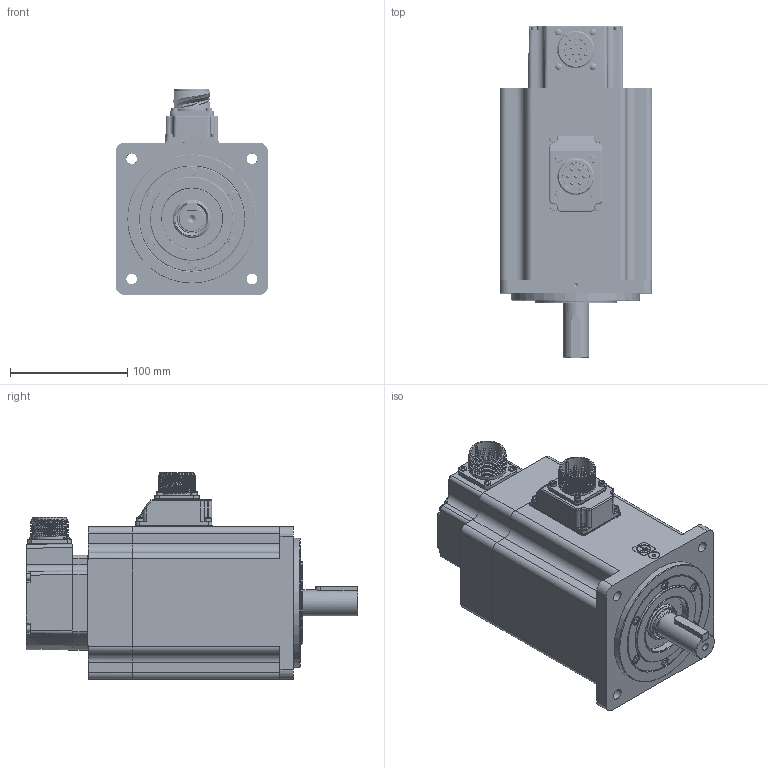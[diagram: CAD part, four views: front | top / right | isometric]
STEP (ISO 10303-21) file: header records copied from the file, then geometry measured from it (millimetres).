
FILE_DESCRIPTION(/* description */ ('AdapterTestApp'),/* implementation_level */ '2;1');
FILE_NAME(/* name */ 'TCE130 5H XX 3 A1 1 C3',/* time_stamp */ '2015-09-17T08:26:32+02:00',/* author */ ('AdapterTestApp'),/* organization */ ('Siemens PLM Software'),/* preprocessor_version */ 'ST-DEVELOPER v15.6',/* originating_system */ 'DEX',/* authorisation */ $);
FILE_SCHEMA (('AUTOMOTIVE_DESIGN {1 0 10303 214 3 1 1}'));
Products named in the file (33): TCE130 5H XX 3 A1 1 C3_vuoto; U5160003_vuoto; 003120002515; 003799000580; 003303000370; 003303000373; 005117001750; 005911000201; 005911000150; cap-M3 nudo; 005123001528; 003003199410; 005911000493; 005123000600; 003103001510; 005911000430; 003251022006; 005751000410; 005911003646; 005113002005; back cover TCE100 + CN MIL; 001107000620; 005911000525; 003108015154; 005009000203; 005204000001; 005204000002; 005119000340; 005008000842; 005008000302; 005008000690; 005204000003; 003155002050
Assembly tree (59 placements, depth 3):
  TCE130 5H XX 3 A1 1 C3_vuoto
    U5160003_vuoto
      003120002515
      003799000580
      003303000370
      003303000373
      005117001750
      005911000201  x8
      005911000150
      cap-M3 nudo
    005123001528
    003003199410
    005911000493  x4
    005123000600
    003103001510
    005911000430  x6
    003251022006
    005751000410
    005911003646  x8
    005113002005
    back cover TCE100 + CN MIL
      001107000620
      003303000373
      005911000525  x4
      003108015154
    005009000203
    005204000001
    005204000002
    005119000340
    005008000842
    005008000302
    005008000690  x2
    005204000003
    003155002050
Bounding box: 130.3 x 283 x 175.8 mm (x, y, z)
Volume: 1198788.1 mm3; surface area: 426195.3 mm2
Topology: 72 solids, 82 shells, 3001 faces, 7438 edges, 4789 vertices
Faces by surface type: plane 1510, cylinder 737, extrusion 233, cone 164, torus 146, bspline 139, sphere 72
Full cylindrical faces by diameter (mm): 2 x34, 2.224 x1, 2.4 x8, 2.459 x21, 2.5 x3, 2.6 x1, 2.8 x7, 2.9 x4, 3 x30, 3.048 x4, 3.2 x5, 3.242 x30, 3.5 x15, 3.6 x1, 3.7 x8, 3.8 x2, 4 x19, 4.134 x16, 4.5 x6, 4.7 x11, 5 x8, 5.1 x1, 5.5 x35, 5.6 x4, 5.8 x6, 6.647 x2, 7 x6, 8 x14, 8.5 x8, 10 x1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
Entity records: 92386 total; most frequent: CARTESIAN_POINT 32792, ORIENTED_EDGE 11396, DIRECTION 11250, EDGE_CURVE 5698, VERTEX_POINT 4015, AXIS2_PLACEMENT_3D 3921, FACE_BOUND 3557, EDGE_LOOP 3500
